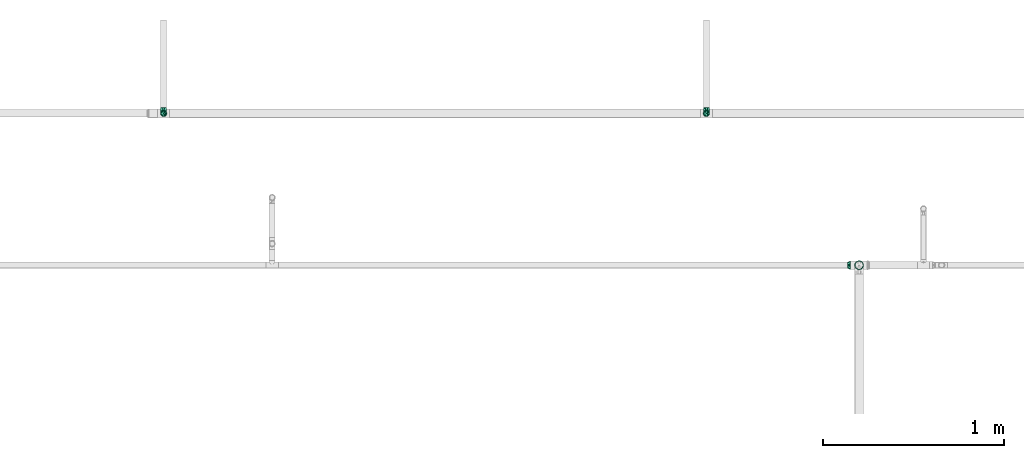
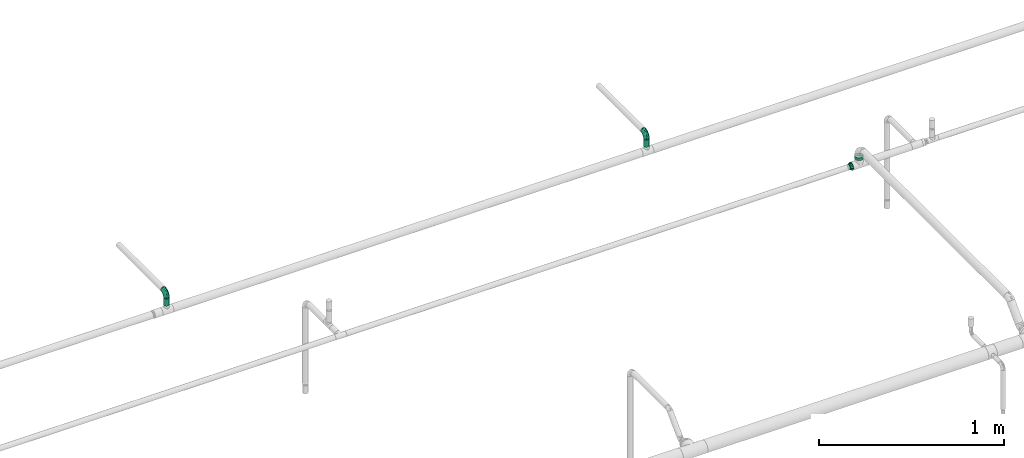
# One storey, part 32 of 51: 3 flow fittings, 3 flow segments.
"""IFC2X3 building model written with IfcOpenShell, lengths in millimetres."""

from ifc_helpers import new_model, entity, si_unit, converted_unit, derived_unit, direction, frame, origin_with_axes, origin_2d_with_axis, place, context, subcontext, project, spatial, hollow_circle, extrude, open_shell, surface_model, source, transform, mapped, type_object, element, save


model = new_model("IFC2X3")

# Units and contexts
model_context = context("Model", 3, precision=0.01, world=frame((0.0, 4.29681676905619e-09, 0.0)), true_north=direction((4.01073788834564e-13, 1.0)))
plan_context = context("Plan", 3, precision=0.01, world=frame((0.0, 4.29681676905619e-09, 0.0)), true_north=direction((4.01073788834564e-13, 1.0)))
body_context = subcontext(model_context, "Body", "Model", "MODEL_VIEW")
ifc_project = project(units=[converted_unit("PLANEANGLEUNIT", "DEGREE", entity("IfcPositiveLengthMeasure", 0.0174532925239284), si_unit("PLANEANGLEUNIT", "RADIAN"), dimensions=[0, 0, 0, 0, 0, 0, 0]), si_unit("AREAUNIT", "SQUARE_METRE"), si_unit("LENGTHUNIT", "METRE", prefix="MILLI"), si_unit("MASSUNIT", "GRAM", prefix="KILO"), si_unit("POWERUNIT", "WATT"), si_unit("PRESSUREUNIT", "PASCAL"), si_unit("FORCEUNIT", "NEWTON", prefix="KILO"), si_unit("ELECTRICVOLTAGEUNIT", "VOLT"), si_unit("ELECTRICCURRENTUNIT", "AMPERE"), si_unit("THERMODYNAMICTEMPERATUREUNIT", "DEGREE_CELSIUS"), si_unit("TIMEUNIT", "SECOND"), si_unit("VOLUMEUNIT", "CUBIC_METRE"), derived_unit("LINEARVELOCITYUNIT", [(si_unit("LENGTHUNIT", "METRE"), 1), (si_unit("TIMEUNIT", "SECOND"), -1)]), derived_unit("VOLUMETRICFLOWRATEUNIT", [(si_unit("VOLUMEUNIT", "CUBIC_METRE"), 1), (si_unit("TIMEUNIT", "SECOND"), -1)]), derived_unit("THERMALTRANSMITTANCEUNIT", [(si_unit("POWERUNIT", "WATT"), 1), (si_unit("THERMODYNAMICTEMPERATUREUNIT", "KELVIN"), -1), (si_unit("AREAUNIT", "SQUARE_METRE"), -1)]), derived_unit("SOUNDPRESSUREUNIT", [(si_unit("PRESSUREUNIT", "PASCAL"), 1)])], contexts=[model_context, plan_context])

# Site, building, storey
site_placement = place(None, frame((0.0, -4.29681676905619e-09, 0.0), z_axis=(0.0, 0.0, 1.0), x_axis=(1.0, 0.0, 0.0)))
site = spatial("IfcSite", under=ifc_project, at=site_placement, Name="ENGM", CompositionType="ELEMENT")
building_placement = place(site_placement, frame((0.0, 4.29681676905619e-09, 0.0), z_axis=(0.0, 0.0, 1.0), x_axis=(1.0, 0.0, 0.0)))
building = spatial("IfcBuilding", under=site, at=building_placement, Name="TH", CompositionType="ELEMENT")
storey_placement = place(building_placement, frame((0.0, 0.0, 210200.0), z_axis=(0.0, 0.0, 1.0), x_axis=(1.0, 0.0, 0.0)))
storey = spatial("IfcBuildingStorey", under=building, at=storey_placement, Name="Nivå F - 0,7 m", CompositionType="ELEMENT", Elevation=210200.0)

# Flow fittings
pipe_fitting_type_1 = type_object("IfcPipeFittingType", Name="magi_pipe_fe_elbow_short_001", PredefinedType="BEND")
shared_shape_1 = source(origin_with_axes(), body_context, "Body", "SurfaceModel", [
    surface_model("IfcShellBasedSurfaceModel", [(-33.8, 8.45, -14.63583), (-33.8, 4.37404, -16.32415), (-33.8, 11.9501, -11.9501), (-33.8, -11.9501, -11.9501), (-33.8, -14.63583, -8.45), (-33.8, -8.45, -14.63583), (-33.8, 0.0, -16.9), (-33.8, -4.37404, -16.32415), (-33.8, -4.37404, 16.32415), (-33.8, 0.0, 16.9), (-33.8, -8.45, 14.63583), (-33.8, 16.32415, -4.37404), (-33.8, 14.63583, -8.45), (-33.8, -16.32415, -4.37404), (-33.8, -16.9, 0.0), (-33.8, -16.32415, 4.37404), (-33.8, 11.9501, 11.9501), (-33.8, 14.63583, 8.45), (-33.8, 16.32415, 4.37404), (-33.8, 4.37404, 16.32415), (-33.8, 8.45, 14.63583), (-33.8, -14.63583, 8.45), (-33.8, -11.9501, 11.9501), (-33.8, 16.9, 0.0), (-11.9501, 33.8, -11.9501), (0.0, 33.8, -16.9), (-4.37404, 33.8, -16.32415), (-8.45, 33.8, -14.63583), (-14.63583, 33.8, -8.45), (-16.32415, 33.8, -4.37404), (14.63583, 33.8, -8.45), (8.45, 33.8, 14.63583), (16.32415, 33.8, -4.37404), (8.45, 33.8, -14.63583), (11.9501, 33.8, -11.9501), (4.37404, 33.8, -16.32415), (16.32415, 33.8, 4.37404), (16.9, 33.8, 0.0), (-11.9501, 33.8, 11.9501), (-16.32415, 33.8, 4.37404), (-14.63583, 33.8, 8.45), (-8.45, 33.8, 14.63583), (-4.37404, 33.8, 16.32415), (11.9501, 33.8, 11.9501), (14.63583, 33.8, 8.45), (0.0, 33.8, 16.9), (4.37404, 33.8, 16.32415), (-16.9, 33.8, 0.0), (-24.79389, -13.12945, 9.48721), (-22.19287, -9.75018, 12.59315), (-24.09897, -14.97035, 0.0), (-14.93934, -10.76256, 8.5297), (-22.46095, -14.75051, 5.27077), (14.75051, 22.46094, 5.27077), (11.9251, 13.23888, 4.33236), (13.04069, 14.39795, 0.0), (7.71387, 13.68847, 11.55891), (9.75018, 22.19287, 12.59315), (4.10169, 13.0571, 14.04018), (-24.84007, -6.39063, 15.2048), (-25.81779, -2.23879, 16.61097), (-23.66549, 2.59054, 16.87119), (-26.50418, 14.06512, 11.08152), (-24.21253, 17.66365, 7.72657), (-29.58514, 15.86957, 7.00283), (-6.17382, -7.5455, 0.0), (-13.23888, -11.9251, 4.33236), (-14.39795, -13.04069, 0.0), (-17.81434, 18.87373, 11.97104), (-6.30846, 29.15138, 15.82987), (-2.31622, 25.28002, 16.85849), (-29.23923, 10.23435, 13.77053), (-1.45439, -2.85688, 7.61475), (-0.28326, 0.34872, 10.09509), (-5.74484, -4.04709, 10.4122), (-4.41137, 11.31918, 16.59407), (-8.39727, 3.10034, 15.7812), (-1.72649, 9.1306, 15.53089), (-17.39909, 24.75344, 7.64977), (-26.19233, 20.0512, 0.0), (-28.14518, 17.29657, 4.25857), (-26.05147, 6.6281, 15.96447), (-5.87354, 16.61944, 16.86968), (-12.51807, 12.51807, 16.48937), (-10.06312, 7.38516, 16.81295), (-3.01882, 3.01882, 13.81718), (-13.0571, -4.10169, 14.04018), (-16.82553, -0.15166, 16.38038), (10.76256, 14.93934, 8.5297), (13.12945, 24.79389, 9.48721), (6.39063, 24.84007, 15.2048), (2.23879, 25.81779, 16.61097), (-13.68847, -7.71387, 11.55891), (14.97035, 24.09897, 0.0), (-7.30894, 22.89991, 16.09489), (-10.67958, 26.17414, 14.008), (-12.78295, 18.26924, 15.06066), (-13.88562, 22.45231, 12.93244), (-18.04944, 15.16501, 14.04434), (-23.11658, 20.08178, 4.02986), (-21.84989, 21.84989, 0.0), (-18.55817, 25.48277, 3.93065), (-13.95142, 26.94732, 11.03289), (-18.57098, 7.23906, 16.59756), (-16.58335, 4.14122, 16.89279), (-17.96666, 11.46709, 15.63151), (-9.84453, 17.54304, 16.18938), (0.15166, 16.82553, 16.38038), (-23.27207, 11.47201, 14.23154), (3.84842, 5.86994, 10.70473), (-8.0212, -7.54413, 7.93275), (1.00345, -2.19508, 4.57414), (5.13203, 3.01004, 5.90201), (5.24161, 1.7543, 2.53265), (8.70457, 7.04947, 3.99182), (-20.0512, 26.19233, 0.0), (8.4852, 8.76699, 7.09296), (-4.55488, -6.72064, 4.90681), (2.05031, -2.05031, 0.0), (7.5455, 6.17382, 0.0), (-26.75399, 2.1369, -16.845), (-14.61995, 24.73803, -11.27736), (-28.45274, -13.45335, -9.81895), (-26.00469, 6.63555, -15.96645), (-23.06726, 20.04573, -4.26202), (-13.80647, -4.26506, -14.17873), (-14.67501, -0.21081, -16.07388), (-6.7902, -0.2828, -13.8478), (-24.53586, 11.08096, -14.13417), (-26.72048, 14.00837, -11.05776), (10.0967, 24.44989, -12.75976), (5.83237, 21.40218, -15.03047), (6.66249, 28.54238, -15.38093), (-20.38182, 15.48705, -12.74596), (12.53268, 21.23441, -9.15363), (12.54494, 15.67504, -5.54878), (9.7522, 12.89279, -8.66343), (-15.65186, 19.64213, -13.01327), (-12.03528, 20.66498, -14.67665), (-15.61907, 15.61906, -14.83879), (-25.56551, -15.26206, 0.0), (-24.65452, -15.12934, -5.50955), (13.45335, 28.45274, -9.81895), (15.12934, 24.65452, -5.50955), (-7.35442, -8.31014, -5.65563), (-15.67504, -12.54494, -5.54878), (-24.44989, -10.0967, -12.75976), (0.16522, 0.41303, -9.71728), (-5.70658, -5.33066, -8.89288), (-5.13869, -2.37198, -11.53565), (-21.23441, -12.53268, -9.15363), (0.71146, 7.93863, -14.09382), (0.21081, 14.67501, -16.07388), (3.49291, 14.42772, -14.76381), (-24.89911, -2.13088, -16.591), (-28.54238, -6.66249, -15.38093), (-18.44386, -7.71663, -13.26957), (2.13088, 24.89911, -16.591), (-28.64342, 17.44413, -2.89318), (1.70017, -1.28722, -5.09504), (-16.57067, 26.81947, -7.36596), (-17.69055, 27.4263, -3.76405), (-12.89279, -9.7522, -8.66343), (-5.96611, 5.96611, -15.95814), (-20.53709, 20.09345, -8.28985), (-2.1369, 26.75399, -16.845), (-6.89872, 24.58781, -16.02578), (-10.60739, 26.53157, -13.98044), (-21.40218, -5.83237, -15.03047), (2.93192, 5.89627, -11.55917), (6.89393, 12.61842, -11.82233), (5.58056, 5.95325, -8.79455), (-3.99512, 18.61798, -16.89635), (8.31014, 7.35442, -5.65563), (-9.1383, 9.86148, -16.89041), (-9.99983, 16.02119, -16.39699), (-16.68576, 9.78031, -16.34199), (-27.01915, 16.61158, -7.12979), (15.26206, 25.56551, 0.0), (-18.61798, 3.99512, -16.89635), (-19.37495, 27.82495, 0.0), (-12.61842, -6.89393, -11.82233), (-18.84705, 19.14018, -10.96545)], [open_shell([[[0, 1, 2]], [[3, 4, 5]], [[6, 7, 5]], [[8, 9, 10]], [[1, 6, 2]], [[11, 12, 2]], [[4, 2, 6]], [[2, 13, 10]], [[5, 4, 6]], [[2, 4, 13]], [[14, 15, 13]], [[11, 2, 16]], [[11, 17, 18]], [[11, 16, 17]], [[19, 20, 16]], [[16, 2, 10]], [[19, 16, 10]], [[21, 22, 15]], [[22, 13, 15]], [[22, 10, 13]], [[10, 9, 19]], [[11, 18, 23]], [[24, 25, 26]], [[24, 26, 27]], [[24, 28, 29]], [[25, 24, 30]], [[31, 32, 24]], [[33, 30, 34]], [[33, 35, 25]], [[25, 30, 33]], [[32, 30, 24]], [[32, 36, 37]], [[38, 24, 29]], [[39, 40, 29]], [[40, 38, 29]], [[38, 41, 42]], [[38, 31, 24]], [[31, 38, 42]], [[36, 43, 44]], [[36, 32, 43]], [[31, 45, 46]], [[32, 31, 43]], [[42, 45, 31]], [[39, 29, 47]], [[22, 48, 49]], [[15, 14, 50]], [[51, 48, 52]], [[53, 54, 55]], [[48, 22, 21]], [[15, 52, 21]], [[56, 57, 58]], [[49, 10, 22]], [[49, 59, 10]], [[9, 60, 61]], [[62, 63, 64]], [[65, 66, 67]], [[57, 43, 31]], [[62, 68, 63]], [[42, 69, 70]], [[20, 71, 16]], [[8, 60, 9]], [[72, 73, 74]], [[75, 76, 77]], [[16, 62, 17]], [[40, 39, 78]], [[79, 23, 80]], [[64, 18, 17]], [[9, 61, 19]], [[19, 81, 20]], [[82, 83, 84]], [[74, 85, 86]], [[59, 86, 87]], [[88, 89, 57]], [[90, 31, 46]], [[44, 53, 36]], [[46, 45, 91]], [[54, 53, 88]], [[44, 89, 53]], [[92, 86, 49]], [[89, 44, 43]], [[10, 59, 8]], [[53, 55, 93]], [[93, 36, 53]], [[66, 52, 67]], [[94, 82, 70]], [[95, 96, 94]], [[97, 98, 96]], [[79, 99, 100]], [[41, 38, 95]], [[101, 100, 99]], [[68, 78, 63]], [[42, 41, 69]], [[23, 18, 80]], [[95, 94, 69]], [[78, 101, 99]], [[38, 102, 95]], [[70, 45, 42]], [[97, 95, 102]], [[15, 50, 52]], [[90, 57, 31]], [[57, 90, 58]], [[81, 19, 61]], [[103, 104, 84]], [[105, 81, 103]], [[38, 40, 102]], [[106, 96, 83]], [[94, 106, 82]], [[91, 70, 107]], [[71, 62, 16]], [[62, 108, 98]], [[86, 59, 49]], [[67, 52, 50]], [[60, 59, 87]], [[92, 49, 51]], [[86, 85, 76]], [[91, 90, 46]], [[37, 36, 93]], [[107, 77, 58]], [[107, 58, 90]], [[58, 85, 109]], [[110, 74, 92]], [[72, 74, 110]], [[66, 51, 52]], [[72, 111, 112]], [[113, 114, 112]], [[56, 88, 57]], [[52, 48, 21]], [[49, 48, 51]], [[57, 89, 43]], [[53, 89, 88]], [[103, 81, 61]], [[71, 81, 108]], [[18, 64, 80]], [[63, 78, 99]], [[47, 115, 101]], [[101, 115, 100]], [[40, 78, 102]], [[68, 102, 78]], [[97, 96, 95]], [[105, 98, 108]], [[103, 84, 83]], [[107, 70, 82]], [[76, 84, 87]], [[82, 84, 75]], [[70, 91, 45]], [[90, 91, 107]], [[59, 60, 8]], [[61, 60, 87]], [[73, 85, 74]], [[109, 112, 116]], [[103, 61, 104]], [[105, 103, 83]], [[96, 105, 83]], [[81, 105, 108]], [[96, 98, 105]], [[62, 98, 68]], [[61, 87, 104]], [[87, 84, 104]], [[86, 76, 87]], [[77, 76, 85]], [[58, 77, 85]], [[75, 77, 107]], [[82, 75, 107]], [[76, 75, 84]], [[81, 71, 20]], [[62, 71, 108]], [[95, 69, 41]], [[70, 69, 94]], [[62, 64, 17]], [[80, 63, 99]], [[63, 80, 64]], [[80, 99, 79]], [[66, 65, 117]], [[110, 66, 117]], [[112, 114, 116]], [[118, 117, 65]], [[110, 92, 51]], [[112, 111, 113]], [[119, 55, 54]], [[74, 86, 92]], [[58, 109, 56]], [[116, 56, 109]], [[66, 110, 51]], [[72, 110, 117]], [[111, 72, 117]], [[73, 112, 109]], [[117, 118, 111]], [[113, 111, 118]], [[118, 119, 113]], [[114, 119, 54]], [[119, 114, 113]], [[116, 54, 88]], [[54, 116, 114]], [[116, 88, 56]], [[112, 73, 72]], [[85, 73, 109]], [[78, 39, 101]], [[47, 101, 39]], [[102, 68, 97]], [[97, 68, 98]], [[82, 106, 83]], [[94, 96, 106]], [[1, 120, 6]], [[28, 24, 121]], [[3, 122, 4]], [[0, 123, 1]], [[100, 124, 79]], [[125, 126, 127]], [[128, 2, 129]], [[130, 131, 132]], [[128, 129, 133]], [[134, 135, 136]], [[137, 138, 139]], [[128, 0, 2]], [[67, 140, 141]], [[134, 142, 143]], [[141, 13, 4]], [[144, 65, 145]], [[146, 3, 5]], [[147, 148, 149]], [[145, 141, 150]], [[151, 152, 153]], [[154, 7, 6]], [[5, 155, 146]], [[150, 146, 156]], [[155, 5, 7]], [[143, 135, 134]], [[35, 157, 25]], [[23, 79, 158]], [[148, 159, 144]], [[160, 161, 29]], [[145, 162, 144]], [[163, 152, 151]], [[29, 28, 160]], [[121, 164, 160]], [[33, 34, 130]], [[25, 165, 26]], [[26, 165, 166]], [[142, 34, 30]], [[24, 27, 167]], [[124, 161, 164]], [[157, 35, 132]], [[155, 154, 168]], [[123, 0, 128]], [[169, 170, 171]], [[172, 157, 152]], [[26, 166, 27]], [[132, 35, 33]], [[142, 130, 34]], [[168, 154, 126]], [[136, 135, 173]], [[133, 137, 139]], [[2, 12, 129]], [[170, 131, 130]], [[30, 32, 143]], [[172, 174, 175]], [[176, 123, 128]], [[158, 177, 11]], [[135, 55, 119]], [[167, 27, 166]], [[175, 166, 172]], [[137, 167, 138]], [[122, 141, 4]], [[140, 14, 13]], [[32, 37, 178]], [[170, 130, 134]], [[152, 157, 131]], [[165, 157, 172]], [[153, 170, 151]], [[152, 163, 174]], [[168, 125, 156]], [[122, 146, 150]], [[120, 154, 6]], [[179, 174, 126]], [[179, 126, 154]], [[126, 163, 127]], [[162, 145, 150]], [[140, 13, 141]], [[32, 178, 143]], [[55, 143, 178]], [[177, 129, 12]], [[128, 133, 139]], [[176, 128, 139]], [[120, 123, 179]], [[121, 160, 28]], [[161, 100, 180]], [[166, 175, 138]], [[121, 24, 167]], [[161, 47, 29]], [[79, 124, 158]], [[124, 164, 177]], [[161, 124, 100]], [[136, 171, 170]], [[127, 163, 151]], [[147, 171, 159]], [[148, 144, 162]], [[127, 151, 169]], [[127, 181, 125]], [[129, 177, 164]], [[12, 11, 177]], [[159, 65, 144]], [[67, 141, 145]], [[143, 55, 135]], [[135, 119, 173]], [[123, 120, 1]], [[154, 120, 179]], [[157, 165, 25]], [[166, 165, 172]], [[172, 152, 174]], [[176, 139, 175]], [[126, 174, 163]], [[176, 174, 179]], [[174, 176, 175]], [[123, 176, 179]], [[150, 181, 162]], [[127, 149, 181]], [[181, 148, 162]], [[159, 148, 147]], [[171, 136, 173]], [[170, 134, 136]], [[159, 171, 173]], [[171, 147, 169]], [[169, 147, 149]], [[151, 170, 169]], [[164, 182, 129]], [[182, 121, 137]], [[181, 149, 148]], [[169, 149, 127]], [[182, 137, 133]], [[167, 137, 121]], [[166, 138, 167]], [[175, 139, 138]], [[129, 182, 133]], [[121, 182, 164]], [[161, 160, 164]], [[47, 161, 180]], [[177, 158, 124]], [[23, 158, 11]], [[130, 132, 33]], [[157, 132, 131]], [[143, 142, 30]], [[130, 142, 134]], [[154, 155, 7]], [[146, 155, 168]], [[146, 122, 3]], [[141, 122, 150]], [[152, 131, 153]], [[159, 119, 118]], [[67, 145, 65]], [[170, 153, 131]], [[119, 159, 173]], [[159, 118, 65]], [[156, 125, 181]], [[126, 125, 168]], [[150, 156, 181]], [[168, 156, 146]]])]),
])
for number, where, z_axis, x_axis, name in (
    (1, (899499.91443, 487040.10129, 2938.32088000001), (-1.0, 0.0, 0.0), (0.0, 0.0, 1.0), "magi_pipe_fe_elbow_short_001"),
    (2, (902499.91443, 487040.10129, 2938.32088000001), (-1.0, 0.0, 0.0), (0.0, 0.0, 1.0), "magi_pipe_fe_elbow_short_001"),
):
    element("IfcFlowFitting", number, at=place(storey_placement, frame(where, z_axis=z_axis, x_axis=x_axis)), inside=storey, type_object=pipe_fitting_type_1, Name=name, context=body_context, shape_type="MappedRepresentation", body=[
        mapped(shared_shape_1, transform((0.0, 0.0, 0.0), scale=1.0)),
    ])
pipe_fitting_type_2 = type_object("IfcPipeFittingType", Name="magi_pipe_fe_reducer_centric_short_NOR", PredefinedType="TRANSITION")
shared_shape_2 = source(origin_with_axes(), body_context, "Body", "SurfaceModel", [
    surface_model("IfcShellBasedSurfaceModel", [(16.6, 4.37404, -16.32415), (16.6, 8.45, -14.63583), (16.6, 11.9501, -11.9501), (16.6, 0.0, -16.9), (16.6, 16.32415, -4.37404), (16.6, 16.32415, 4.37404), (16.6, 14.63583, -8.45), (16.6, -8.45, 14.63583), (16.6, -8.45, -14.63583), (16.6, -4.37404, -16.32415), (16.6, -11.9501, -11.9501), (16.6, -16.32415, -4.37404), (16.6, -14.63583, -8.45), (16.6, -16.32415, 4.37404), (16.6, 16.9, 0.0), (16.6, 14.63583, 8.45), (16.6, 11.9501, 11.9501), (16.6, 4.37404, 16.32415), (16.6, 8.45, 14.63583), (16.6, 0.0, 16.9), (16.6, -14.63583, 8.45), (16.6, -16.9, 0.0), (16.6, -11.9501, 11.9501), (16.6, -4.37404, 16.32415), (14.6, 11.9501, 11.9501), (14.6, 0.0, 16.9), (14.6, 4.37404, 16.32415), (14.6, 8.45, 14.63583), (14.6, 14.63583, 8.45), (14.6, 16.32415, 4.37404), (14.6, -16.32415, 4.37404), (14.6, -8.45, -14.63583), (14.6, -8.45, 14.63583), (14.6, -14.63583, 8.45), (14.6, -11.9501, 11.9501), (14.6, -4.37404, 16.32415), (14.6, -16.32415, -4.37404), (14.6, -16.9, 0.0), (14.6, 16.32415, -4.37404), (14.6, 11.9501, -11.9501), (14.6, 14.63583, -8.45), (14.6, 8.45, -14.63583), (14.6, 4.37404, -16.32415), (14.6, 0.0, -16.9), (14.6, -11.9501, -11.9501), (14.6, -14.63583, -8.45), (14.6, -4.37404, -16.32415), (14.6, 16.9, 0.0), (-2.0, 0.0, 24.2), (-2.0, 6.26342, 23.37541), (-2.0, 12.1, 20.95781), (-2.0, 17.11198, 17.11198), (-2.0, 24.2, 0.0), (-2.0, 20.95781, 12.1), (-2.0, -23.37541, 6.26342), (-2.0, -17.11198, -17.11198), (-2.0, -6.26342, 23.37541), (-2.0, -17.11198, 17.11198), (-2.0, -12.1, 20.95781), (-2.0, -20.95781, 12.1), (-2.0, -24.2, 0.0), (-2.0, 23.37541, 6.26342), (-2.0, 23.37541, -6.26342), (-2.0, 6.26342, -23.37541), (-2.0, 17.11198, -17.11198), (-2.0, 20.95781, -12.1), (-2.0, 12.1, -20.95781), (-2.0, -23.37541, -6.26342), (-2.0, -20.95781, -12.1), (-2.0, -6.26342, -23.37541), (-2.0, -12.1, -20.95781), (-2.0, 0.0, -24.2), (0.0, 24.2, 0.0), (0.0, 6.26342, -23.37541), (0.0, 12.1, -20.95781), (0.0, 23.37541, -6.26342), (0.0, 17.11198, -17.11198), (0.0, 20.95781, -12.1), (0.0, -24.2, 0.0), (0.0, -12.1, -20.95781), (0.0, -6.26342, -23.37541), (0.0, 0.0, -24.2), (0.0, -17.11198, -17.11198), (0.0, -23.37541, -6.26342), (0.0, -20.95781, -12.1), (0.0, 20.95781, 12.1), (0.0, 17.11198, 17.11198), (0.0, 12.1, 20.95781), (0.0, 6.26342, 23.37541), (0.0, 0.0, 24.2), (0.0, -23.37541, 6.26342), (0.0, -17.11198, 17.11198), (0.0, -20.95781, 12.1), (0.0, -6.26342, 23.37541), (0.0, -12.1, 20.95781), (0.0, 23.37541, 6.26342), (0.0, 7.47821, 23.01557), (0.0, 19.57821, 14.2244), (0.0, -7.47821, 23.01557), (0.0, -19.57821, 14.2244), (0.0, 7.47821, -23.01557), (0.0, 19.57821, -14.2244), (0.0, -7.47821, -23.01557), (0.0, -19.57821, -14.2244), (14.6, -13.18758, -8.96258), (14.6, 14.42505, -5.97505), (0.0, 21.8891, -7.1122), (0.0, 13.52821, -18.61999), (0.0, 16.55321, -16.42219), (14.6, -14.42505, -5.97505), (0.0, -21.8891, -7.1122), (0.0, -20.73366, -10.6683), (14.6, 5.97505, -14.42505), (0.0, 0.0, -23.01557), (14.6, -2.98753, -15.66253), (14.6, 2.98753, -15.66253), (14.6, 8.96258, -13.18758), (14.6, 15.66253, -2.98753), (14.6, -15.66253, -2.98753), (0.0, -13.52821, -18.61999), (14.6, -5.97505, -14.42505), (14.6, -8.96258, -13.18758), (14.6, 13.18758, -8.96258), (14.6, 13.18758, 8.96258), (14.6, -14.42505, 5.97505), (0.0, -21.8891, 7.1122), (0.0, -13.52821, 18.61999), (0.0, -16.55321, 16.42219), (14.6, 14.42505, 5.97505), (0.0, 21.8891, 7.1122), (0.0, 20.73366, 10.6683), (14.6, -5.97505, 14.42505), (0.0, 0.0, 23.01557), (14.6, 2.98753, 15.66253), (14.6, -2.98753, 15.66253), (14.6, -8.96258, 13.18758), (14.6, -15.66253, 2.98753), (14.6, 15.66253, 2.98753), (0.0, 13.52821, 18.61999), (14.6, 5.97505, 14.42505), (14.6, 8.96258, 13.18758), (14.6, -13.18758, 8.96258)], [open_shell([[[0, 1, 2]], [[3, 0, 2]], [[2, 4, 5]], [[4, 2, 6]], [[2, 7, 8]], [[3, 8, 9]], [[3, 2, 8]], [[10, 11, 12]], [[11, 10, 8]], [[8, 13, 11]], [[5, 4, 14]], [[5, 15, 16]], [[5, 16, 17]], [[5, 17, 7]], [[17, 16, 18]], [[7, 17, 19]], [[13, 7, 20]], [[21, 11, 13]], [[20, 7, 22]], [[7, 13, 8]], [[19, 23, 7]], [[2, 5, 7]], [[24, 25, 26]], [[24, 26, 27]], [[24, 28, 29]], [[24, 29, 25]], [[30, 25, 31]], [[32, 33, 34]], [[33, 32, 35]], [[25, 33, 35]], [[25, 30, 33]], [[30, 36, 37]], [[31, 25, 29]], [[29, 38, 39]], [[39, 38, 40]], [[39, 41, 42]], [[31, 29, 39]], [[42, 43, 39]], [[36, 44, 45]], [[44, 36, 31]], [[31, 43, 46]], [[36, 30, 31]], [[39, 43, 31]], [[38, 29, 47]], [[36, 11, 37]], [[45, 12, 36]], [[8, 44, 31]], [[45, 44, 10]], [[9, 31, 46]], [[36, 12, 11]], [[11, 21, 37]], [[9, 8, 31]], [[10, 44, 8]], [[10, 12, 45]], [[3, 9, 46]], [[46, 43, 3]], [[42, 0, 43]], [[41, 1, 42]], [[6, 39, 40]], [[41, 39, 2]], [[4, 40, 38]], [[41, 2, 1]], [[1, 0, 42]], [[14, 4, 38]], [[6, 40, 4]], [[6, 2, 39]], [[47, 14, 38]], [[43, 0, 3]], [[29, 5, 47]], [[28, 15, 29]], [[18, 24, 27]], [[28, 24, 16]], [[17, 27, 26]], [[29, 15, 5]], [[5, 14, 47]], [[17, 18, 27]], [[16, 24, 18]], [[16, 15, 28]], [[19, 17, 26]], [[26, 25, 19]], [[35, 23, 25]], [[32, 7, 35]], [[20, 34, 33]], [[32, 34, 22]], [[13, 33, 30]], [[32, 22, 7]], [[7, 23, 35]], [[21, 13, 30]], [[20, 33, 13]], [[20, 22, 34]], [[37, 21, 30]], [[25, 23, 19]], [[48, 49, 50]], [[48, 50, 51]], [[52, 51, 53]], [[54, 48, 55]], [[48, 51, 55]], [[56, 57, 58]], [[56, 48, 57]], [[57, 54, 59]], [[48, 54, 57]], [[54, 55, 60]], [[52, 53, 61]], [[51, 62, 63]], [[64, 62, 65]], [[66, 63, 62]], [[66, 62, 64]], [[63, 55, 51]], [[67, 55, 68]], [[60, 55, 67]], [[63, 69, 70]], [[70, 55, 63]], [[69, 63, 71]], [[62, 51, 52]], [[72, 73, 74]], [[75, 74, 76]], [[75, 72, 74]], [[75, 76, 77]], [[73, 78, 79]], [[73, 80, 81]], [[73, 79, 80]], [[82, 83, 84]], [[82, 79, 78]], [[82, 78, 83]], [[73, 72, 85]], [[85, 86, 73]], [[73, 86, 78]], [[87, 88, 89]], [[87, 89, 86]], [[78, 86, 89]], [[90, 91, 92]], [[93, 90, 78]], [[91, 93, 94]], [[93, 91, 90]], [[78, 89, 93]], [[72, 95, 85]], [[67, 83, 60]], [[68, 84, 67]], [[79, 55, 70]], [[68, 55, 82]], [[80, 70, 69]], [[67, 84, 83]], [[83, 78, 60]], [[80, 79, 70]], [[82, 55, 79]], [[82, 84, 68]], [[81, 80, 69]], [[69, 71, 81]], [[63, 73, 71]], [[66, 74, 63]], [[77, 64, 65]], [[66, 64, 76]], [[75, 65, 62]], [[66, 76, 74]], [[74, 73, 63]], [[72, 75, 62]], [[77, 65, 75]], [[77, 76, 64]], [[52, 72, 62]], [[71, 73, 81]], [[61, 95, 52]], [[53, 85, 61]], [[87, 51, 50]], [[53, 51, 86]], [[88, 50, 49]], [[61, 85, 95]], [[95, 72, 52]], [[88, 87, 50]], [[86, 51, 87]], [[86, 85, 53]], [[89, 88, 49]], [[49, 48, 89]], [[56, 93, 48]], [[58, 94, 56]], [[92, 57, 59]], [[58, 57, 91]], [[90, 59, 54]], [[58, 91, 94]], [[94, 93, 56]], [[78, 90, 54]], [[92, 59, 90]], [[92, 91, 57]], [[60, 78, 54]], [[48, 93, 89]], [[25, 34, 47]], [[47, 24, 25]], [[34, 44, 47]], [[43, 47, 44]], [[39, 47, 43]], [[44, 34, 37]], [[96, 97, 98]], [[98, 78, 99]], [[78, 98, 97]], [[97, 100, 78]], [[101, 100, 97]], [[78, 102, 103]], [[78, 100, 102]], [[97, 72, 101]], [[103, 44, 104]], [[105, 101, 106]], [[39, 107, 108]], [[109, 110, 111]], [[100, 107, 112]], [[113, 114, 102]], [[113, 115, 43]], [[116, 112, 107]], [[72, 117, 106]], [[100, 115, 113]], [[78, 118, 37]], [[44, 103, 119]], [[119, 120, 121]], [[78, 110, 118]], [[117, 72, 47]], [[101, 105, 122]], [[114, 120, 102]], [[114, 113, 43]], [[100, 112, 115]], [[39, 108, 101]], [[109, 118, 110]], [[103, 104, 111]], [[104, 109, 111]], [[39, 101, 122]], [[120, 119, 102]], [[121, 44, 119]], [[117, 105, 106]], [[107, 39, 116]], [[97, 24, 123]], [[124, 99, 125]], [[34, 126, 127]], [[128, 129, 130]], [[98, 126, 131]], [[132, 133, 96]], [[132, 134, 25]], [[135, 131, 126]], [[78, 136, 125]], [[98, 134, 132]], [[72, 137, 47]], [[24, 97, 138]], [[138, 139, 140]], [[72, 129, 137]], [[136, 78, 37]], [[99, 124, 141]], [[133, 139, 96]], [[133, 132, 25]], [[98, 131, 134]], [[34, 127, 99]], [[128, 137, 129]], [[97, 123, 130]], [[123, 128, 130]], [[34, 99, 141]], [[139, 138, 96]], [[140, 24, 138]], [[136, 124, 125]], [[126, 34, 135]]])]),
])
flow_fitting_placement = place(storey_placement, frame((903295.75403, 486201.02538, 2949.56988), z_axis=(0.0, 0.0, 1.0), x_axis=(-1.0, 0.0, 0.0)))
element("IfcFlowFitting", 3, at=flow_fitting_placement, inside=storey, type_object=pipe_fitting_type_2, Name="magi_pipe_fe_reducer_centric_short_NOR", context=body_context, shape_type="MappedRepresentation", body=[
    mapped(shared_shape_2, transform((0.0, 0.0, 0.0), scale=1.0)),
])

# Flow segments
pipe_segment_type = type_object("IfcPipeSegmentType", Name="Stålrør normaltykke", PredefinedType="RIGIDSEGMENT")
shared_shape_3 = source(origin_with_axes(), body_context, "Body", "SweptSolid", [
    extrude(hollow_circle(Radius=16.9, WallThickness=2.0, at=origin_2d_with_axis()), frame((0.0, 0.0, 0.0), z_axis=(1.0, 0.0, 0.0), x_axis=(0.0, 1.0, 0.0)), (0.0, 0.0, 1.0), 48.2),
])
for number, where, z_axis, x_axis in (
    (4, (899499.91443, 487040.10129, 2856.29996), (0.0, -1.0, 0.0), (0.0, 0.0, 1.0)),
    (5, (902499.91443, 487040.10129, 2856.29996), (0.0, -1.0, 0.0), (0.0, 0.0, 1.0)),
):
    element("IfcFlowSegment", number, at=place(storey_placement, frame(where, z_axis=z_axis, x_axis=x_axis)), inside=storey, type_object=pipe_segment_type, Name="Stålrør normaltykke", context=body_context, shape_type="MappedRepresentation", body=[
        mapped(shared_shape_3, transform((0.0, 0.0, 0.0), scale=1.0)),
    ])
shared_shape_4 = source(origin_with_axes(), body_context, "Body", "SweptSolid", [
    extrude(hollow_circle(Radius=24.1, WallThickness=2.0, at=origin_2d_with_axis()), frame((0.0, 0.0, 0.0), z_axis=(1.0, 0.0, 0.0), x_axis=(0.0, 1.0, 0.0)), (0.0, 0.0, 1.0), 18.7),
])
flow_segment_placement = place(storey_placement, frame((903344.15403, 486201.02538, 3004.60000000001), z_axis=(1.0, 0.0, 0.0), x_axis=(0.0, 0.0, -1.0)))
element("IfcFlowSegment", 6, at=flow_segment_placement, inside=storey, type_object=pipe_segment_type, Name="Stålrør normaltykke", context=body_context, shape_type="MappedRepresentation", body=[
    mapped(shared_shape_4, transform((0.0, 0.0, 0.0), scale=1.0)),
])

save(model, "model.ifc")
